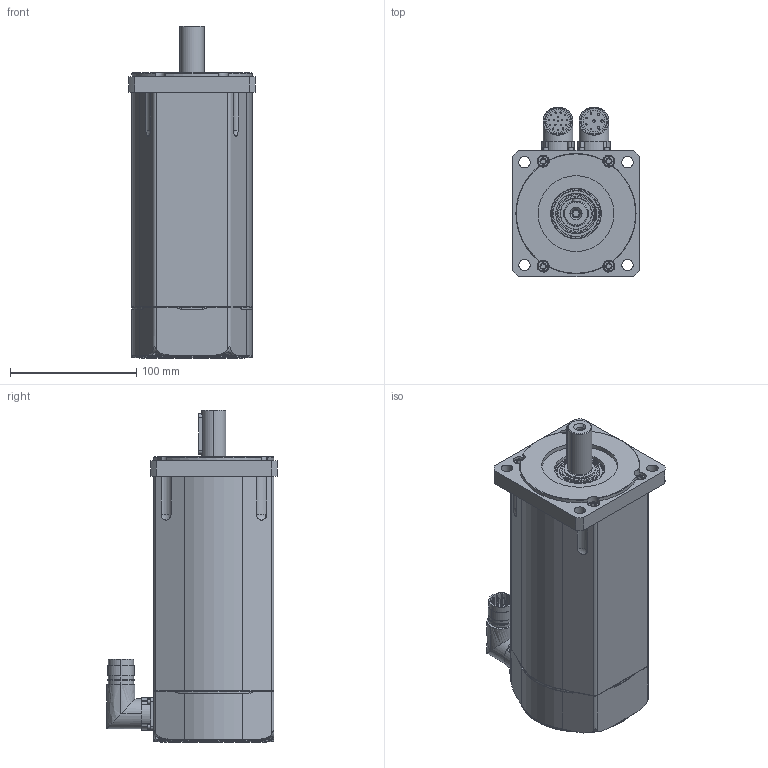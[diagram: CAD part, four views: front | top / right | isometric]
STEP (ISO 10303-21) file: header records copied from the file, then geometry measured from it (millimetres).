
FILE_DESCRIPTION (( 'STEP AP203' ), '1' );
FILE_NAME ('SSAX100M_SF.STEP', '2015-09-10T14:47:15', ( 'Tecnico motori' ), ( '' ), 'SwSTEP 2.0', 'SolidWorks 2010', '' );
FILE_SCHEMA (( 'CONFIG_CONTROL_DESIGN' ));
Length unit declared in the file: millimetre
Products named in the file (1): SSAX100M_SF
Bounding box: 100 x 134.5 x 262.5 mm (x, y, z)
Surface area: 119764.2 mm2 (no closed solid volume)
Topology: 0 solids, 36 shells, 468 faces, 1316 edges, 910 vertices
Faces by surface type: cylinder 205, plane 186, cone 41, torus 30, bspline 6
Entity records: 16743 total; most frequent: CARTESIAN_POINT 4326, DIRECTION 2752, ORIENTED_EDGE 2277, EDGE_CURVE 1316, AXIS2_PLACEMENT_3D 1088, VERTEX_POINT 910, CIRCLE 625, LINE 576
